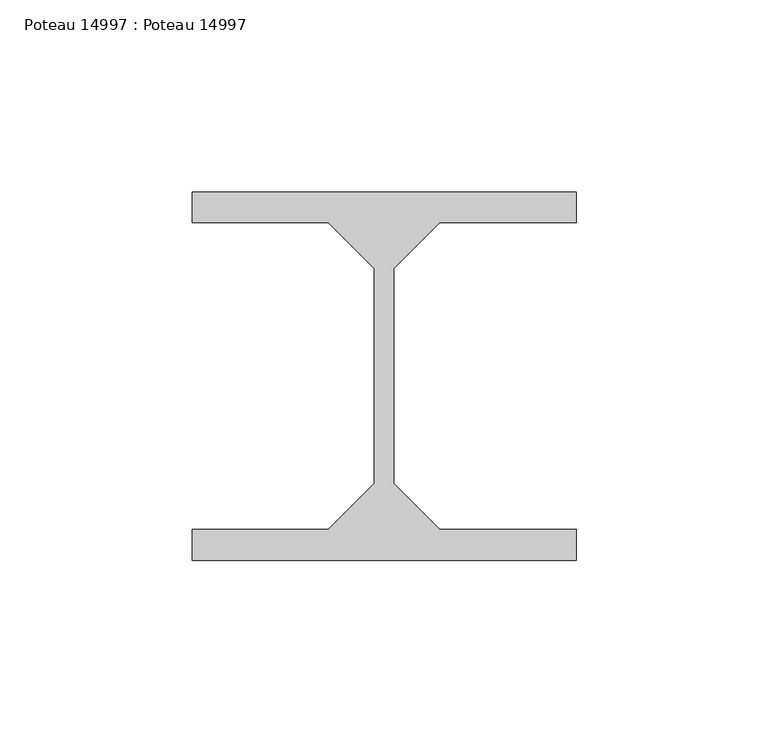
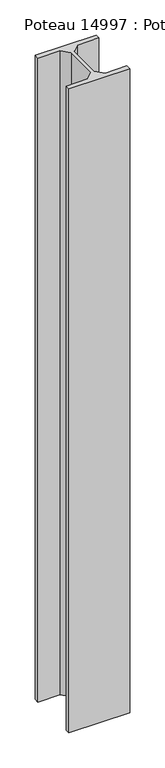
"""IFC4 building model written with IfcOpenShell, lengths in millimetres: beam geometry, Poteau 14997 : Poteau 14997."""

import ifcopenshell
import ifcopenshell.guid

model = None  # the IFC model being written
_history = None  # IfcOwnerHistory: only IFC2X3 demands one
_inside = {}  # id of a spatial element -> (the spatial element, [elements in it])
_under = {}  # id of a project, library or spatial element -> (it, [spatial elements below it])
_declared = {}  # id of a project -> (the project, [libraries it declares])
_typed = {}  # id of a type object -> (the type object, [elements of that type])
_made_of = {}  # id of a material, layer set ... -> (it, [elements and type objects made of it])


def new_model(schema):
    """Start an empty IFC model of exactly this schema.

    Asked for "IFC4X3", IfcOpenShell would pick the latest addendum, in which some entities
    have other attributes; the version numbers below select the first issue.
    IFC2X3 requires an IfcOwnerHistory on every rooted entity: one is made here for all.
    """
    global model, _history
    if schema == "IFC4X3":
        model = ifcopenshell.file(schema_version=(4, 3, 0, 0))
    else:
        model = ifcopenshell.file(schema=schema)
    _inside.clear()
    _under.clear()
    _declared.clear()
    _typed.clear()
    _made_of.clear()
    _history = None
    if model.schema == "IFC2X3":
        org = make("IfcOrganization", Name="unknown")
        user = make(
            "IfcPersonAndOrganization",
            ThePerson=make("IfcPerson", FamilyName="unknown"),
            TheOrganization=org,
        )
        app = make(
            "IfcApplication",
            ApplicationDeveloper=org,
            Version="unknown",
            ApplicationFullName="unknown",
            ApplicationIdentifier="unknown",
        )
        _history = make(
            "IfcOwnerHistory",
            OwningUser=user,
            OwningApplication=app,
            ChangeAction="ADDED",
            CreationDate=0,
        )
    return model


def make(cls, **values):
    """One entity of the class cls with the attributes given. An attribute that is None is left unset."""
    return model.create_entity(
        cls, **{name: value for name, value in values.items() if value is not None}
    )


def rooted(cls, **values):
    """An entity with a GlobalId (a new one), such as an element, a storey or a relation."""
    return make(cls, GlobalId=ifcopenshell.guid.new(), OwnerHistory=_history, **values)


def si_unit(unit_type, name, prefix=None):
    """IfcSIUnit, for example si_unit("LENGTHUNIT", "METRE", prefix="MILLI")."""
    return make("IfcSIUnit", UnitType=unit_type, Prefix=prefix, Name=name)


def assignment(units):
    """IfcUnitAssignment: the units of a project."""
    return None if units is None else make("IfcUnitAssignment", Units=units)


def point(xyz):
    """IfcCartesianPoint."""
    return None if xyz is None else make("IfcCartesianPoint", Coordinates=xyz)


def direction(xyz):
    """IfcDirection."""
    return None if xyz is None else make("IfcDirection", DirectionRatios=xyz)


def frame(location, z_axis=None, x_axis=None):
    """IfcAxis2Placement3D, a coordinate frame: its origin and axes. An axis left out is left unset."""
    return make(
        "IfcAxis2Placement3D",
        Location=point(location),
        Axis=direction(z_axis),
        RefDirection=direction(x_axis),
    )


def origin():
    """The frame at (0, 0, 0) with its axes left unset."""
    return frame((0.0, 0.0, 0.0))


def place(relative_to, where):
    """IfcLocalPlacement: puts the frame where relative to a parent placement (None: the world)."""
    return make(
        "IfcLocalPlacement", PlacementRelTo=relative_to, RelativePlacement=where
    )


def context(
    kind, dimensions, precision=None, world=None, true_north=None, identifier=None
):
    """IfcGeometricRepresentationContext, for example the 3D "Model" context."""
    return make(
        "IfcGeometricRepresentationContext",
        ContextIdentifier=identifier,
        ContextType=kind,
        CoordinateSpaceDimension=dimensions,
        Precision=precision,
        WorldCoordinateSystem=world,
        TrueNorth=true_north,
    )


def project(units=None, contexts=None):
    """IfcProject with its units and contexts."""
    return rooted(
        "IfcProject",
        Name="project",
        RepresentationContexts=contexts,
        UnitsInContext=assignment(units),
    )


def spatial(cls, under=None, at=None, **own):
    """A site, building, storey or space (cls), placed at a placement, below another one or the project."""
    s = rooted(cls, ObjectPlacement=at, **own)
    if under is not None:
        _under.setdefault(under.id(), (under, []))[1].append(s)
    return s


def polyline(points):
    """IfcPolyline through the points."""
    return make("IfcPolyline", Points=[point(p) for p in points])


def outline(outer, holes=None, kind="AREA"):
    """IfcArbitraryClosedProfileDef: a profile drawn as a closed curve; with holes, ...WithVoids."""
    if holes is None:
        return make("IfcArbitraryClosedProfileDef", ProfileType=kind, OuterCurve=outer)
    return make(
        "IfcArbitraryProfileDefWithVoids",
        ProfileType=kind,
        OuterCurve=outer,
        InnerCurves=holes,
    )


def extrude(swept, where, along, depth):
    """IfcExtrudedAreaSolid: the profile swept, set in the frame where, extruded along a direction by depth."""
    return make(
        "IfcExtrudedAreaSolid",
        SweptArea=swept,
        Position=where,
        ExtrudedDirection=direction(along),
        Depth=depth,
    )


def shape(context_of_items, identifier, shape_type, items):
    """IfcShapeRepresentation: the items that make up one representation, for example the "Body"."""
    return make(
        "IfcShapeRepresentation",
        ContextOfItems=context_of_items,
        RepresentationIdentifier=identifier,
        RepresentationType=shape_type,
        Items=items,
    )


def source(mapping_origin, context_of_items, identifier, shape_type, items):
    """IfcRepresentationMap: a shape defined once, which mapped items show again and again."""
    return make(
        "IfcRepresentationMap",
        MappingOrigin=mapping_origin,
        MappedRepresentation=shape(context_of_items, identifier, shape_type, items),
    )


def transform(
    local_origin,
    x_axis=None,
    y_axis=None,
    z_axis=None,
    scale=None,
    scale2=None,
    scale3=None,
    uniform=True,
):
    """IfcCartesianTransformationOperator3D, or its non-uniform kind. x_axis, y_axis, z_axis: its Axis1, 2, 3."""
    if uniform:
        return make(
            "IfcCartesianTransformationOperator3D",
            Axis1=direction(x_axis),
            Axis2=direction(y_axis),
            LocalOrigin=point(local_origin),
            Scale=scale,
            Axis3=direction(z_axis),
        )
    return make(
        "IfcCartesianTransformationOperator3DnonUniform",
        Axis1=direction(x_axis),
        Axis2=direction(y_axis),
        LocalOrigin=point(local_origin),
        Scale=scale,
        Axis3=direction(z_axis),
        Scale2=scale2,
        Scale3=scale3,
    )


def mapped(mapping_source, mapping_target):
    """IfcMappedItem: shows the shape of a source again, moved by a transform."""
    return make(
        "IfcMappedItem", MappingSource=mapping_source, MappingTarget=mapping_target
    )


def made_of(thing, what):
    """Note that an element or type object is made of a material, layer set ...; save() writes the relation."""
    if what is not None:
        _made_of.setdefault(what.id(), (what, []))[1].append(thing)
    return thing


def element(
    cls,
    number,
    at=None,
    inside=None,
    cuts=None,
    type_object=None,
    material=None,
    context=None,
    identifier="Body",
    shape_type=None,
    held_by="IfcProductDefinitionShape",
    body=None,
    shapes=None,
    **own,
):
    """One element of the class cls, such as IfcWall. Its Tag is "e" and its number.

    at: its placement. inside: the storey or other place that contains it. cuts: it is an
    opening in that element (IfcRelVoidsElement). A single representation is given by context,
    identifier, shape_type and body (its items); several are given by shapes. held_by: the class
    of the entity that holds the representations. save() writes the other relations.
    """
    e = rooted(cls, Tag="e%d" % number, ObjectPlacement=at, **own)
    if body is not None:
        shapes = [shape(context, identifier, shape_type, body)]
    if shapes is not None:
        e.Representation = make(held_by, Representations=shapes)
    if inside is not None:
        _inside.setdefault(inside.id(), (inside, []))[1].append(e)
    if cuts is not None:
        rooted(
            "IfcRelVoidsElement", RelatingBuildingElement=cuts, RelatedOpeningElement=e
        )
    if type_object is not None:
        _typed.setdefault(type_object.id(), (type_object, []))[1].append(e)
    return made_of(e, material)


def aggregate(whole, parts):
    """IfcRelAggregates: a whole, such as a stair, and the parts it consists of."""
    return rooted("IfcRelAggregates", RelatingObject=whole, RelatedObjects=parts)


def save(model, path):
    """Write the relations noted so far, then the file.

    IfcRelAggregates (storeys below a building ...), IfcRelContainedInSpatialStructure (elements
    in a storey), IfcRelDefinesByType, IfcRelAssociatesMaterial and IfcRelDeclares: one each for
    every whole, place, type object, material and project.
    """
    for whole, parts in _under.values():
        aggregate(whole, parts)
    for where, things in _inside.values():
        rooted(
            "IfcRelContainedInSpatialStructure",
            RelatedElements=things,
            RelatingStructure=where,
        )
    for kind, things in _typed.values():
        rooted("IfcRelDefinesByType", RelatedObjects=things, RelatingType=kind)
    for what, things in _made_of.values():
        rooted("IfcRelAssociatesMaterial", RelatedObjects=things, RelatingMaterial=what)
    for by, libraries in _declared.values():
        rooted("IfcRelDeclares", RelatingContext=by, RelatedDefinitions=libraries)
    model.write(path)


def poteau_14997_poteau_14997_3867dd3c(model_context):
    return source(origin(), model_context, "Body", "SweptSolid", [
        extrude(outline(polyline([(3662.4999999, -1.0), (3662.4999999, 7.0), (3697.9999999, 7.0), (3709.9999999, 19.0), (3709.9999999, 75.0), (3697.9999999, 87.0), (3662.4999999, 87.0), (3662.4999999, 95.0), (3762.4999999, 95.0), (3762.4999999, 87.0), (3726.9999999, 87.0), (3714.9999999, 75.0), (3714.9999999, 19.0), (3726.9999999, 7.0), (3762.4999999, 7.0), (3762.4999999, -1.0), (3662.4999999, -1.0)])), frame((0.0, 0.0, 7331.3134819), z_axis=(0.0, 0.0, 1.0), x_axis=(1.0, 0.0, 0.0)), (0.0, 0.0, 1.0), 1118.6865181),
    ])


if __name__ == "__main__":
    model = new_model("IFC4")
    model_context = context("Model", 3, world=origin())
    ifc_project = project(units=[si_unit("LENGTHUNIT", "METRE", prefix="MILLI")], contexts=[model_context])
    site = spatial("IfcSite", under=ifc_project)
    building = spatial("IfcBuilding", under=site)
    placement = place(None, origin())
    poteau_14997_poteau_14997_shape = poteau_14997_poteau_14997_3867dd3c(model_context)
    element("IfcBeam", 1, ObjectType="Poteau 14997 : Poteau 14997", at=placement, inside=building, context=model_context, shape_type="MappedRepresentation", body=[
        mapped(poteau_14997_poteau_14997_shape, transform((0.0, 0.0, 0.0), x_axis=(1.0, 0.0, 0.0), y_axis=(0.0, 1.0, 0.0), z_axis=(0.0, 0.0, 1.0))),
    ])
    save(model, "model.ifc")
